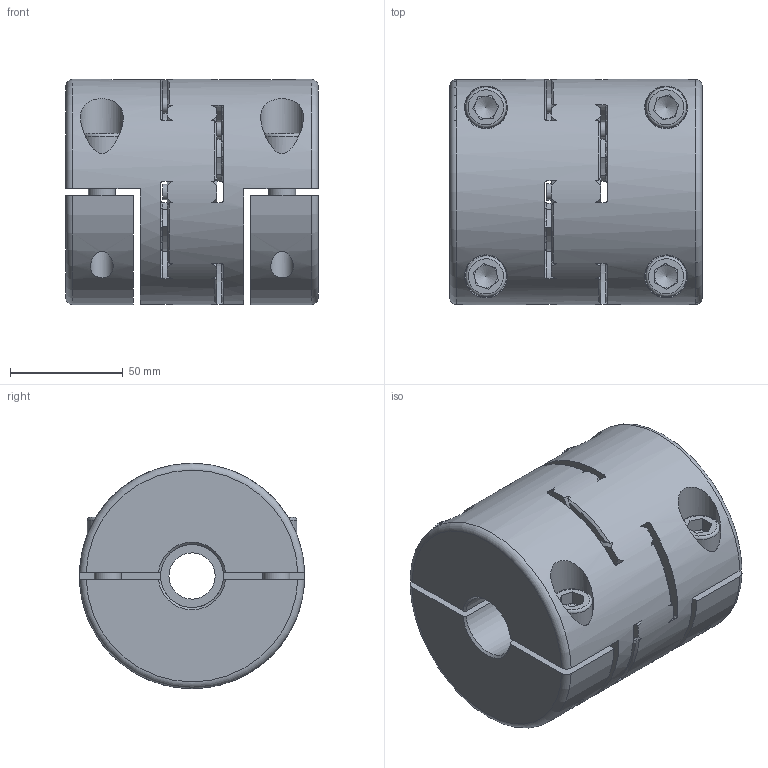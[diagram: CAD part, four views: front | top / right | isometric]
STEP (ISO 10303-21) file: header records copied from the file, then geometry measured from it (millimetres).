
FILE_DESCRIPTION(/* description */ ('Unknown'),/* implementation_level */ '2;1');
FILE_NAME(/* name */ 'EKH 500 - Ø28',/* time_stamp */ '2018-05-03T13:13:43+02:00',/* author */ ('Unknown'),/* organization */ ('Unknown'),/* preprocessor_version */ 'ST-DEVELOPER v16.7',/* originating_system */ 'DEX',/* authorisation */ $);
FILE_SCHEMA (('AUTOMOTIVE_DESIGN {1 0 10303 214 3 1 1}'));
Length unit declared in the file: millimetre
Products named in the file (1): EKH 500 - ﾘ28
Bounding box: 112 x 99.99 x 100 mm (x, y, z)
Volume: 703440.7 mm3; surface area: 130346 mm2
Topology: 1 solids, 1 shells, 306 faces, 817 edges, 523 vertices
Faces by surface type: plane 106, cylinder 90, cone 76, torus 34
Full cylindrical faces by diameter (mm): 7 x8, 10.106 x4, 12 x4, 12.5 x4, 13 x4, 18 x4, 19 x4, 20.5 x1, 28 x2, 47 x2, 100 x1
Entity records: 9538 total; most frequent: CARTESIAN_POINT 2279, DIRECTION 1514, ORIENTED_EDGE 1460, EDGE_CURVE 730, AXIS2_PLACEMENT_3D 653, VERTEX_POINT 494, FACE_BOUND 412, EDGE_LOOP 408
